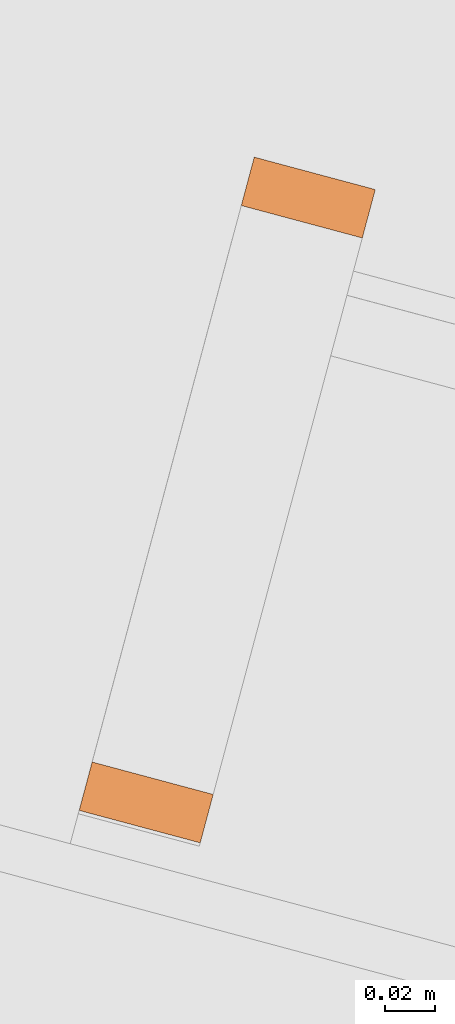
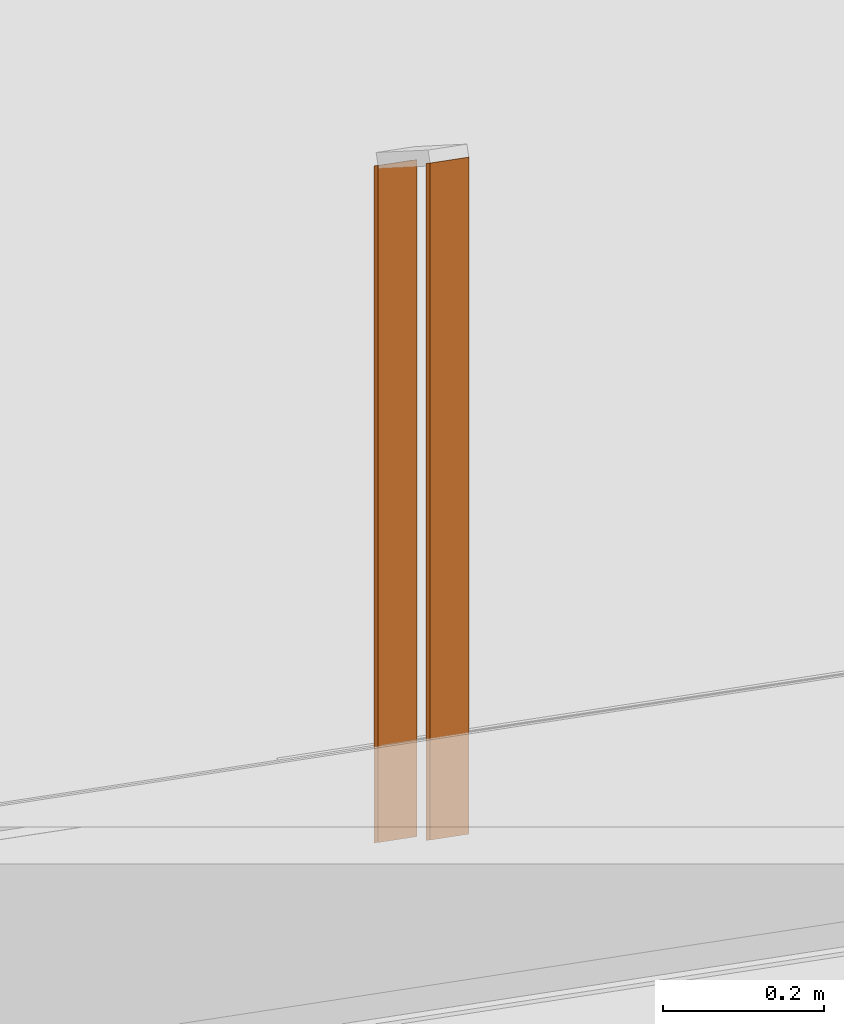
# One storey, part 95 of 167: 2 proxies, 1 element without a shape of its own.
"""IFC2X3 building model written with IfcOpenShell, lengths in millimetres."""

from ifc_helpers import new_model, entity, si_unit, converted_unit, derived_unit, money_unit, direction, frame, origin_with_axes, place, context, subcontext, project, spatial, faceted_brep, source, transform, mapped, material, type_object, type_shapes, element, aggregate, save


model = new_model("IFC2X3")

# Units and contexts
model_context = context("Model", 3, precision=0.01, world=origin_with_axes(), true_north=direction((0.0, 1.0)))
plan_context = context("Plan", 3, precision=0.01, world=origin_with_axes(), true_north=direction((0.0, 1.0)))
body_context = subcontext(model_context, "Body", "Model", "MODEL_VIEW")
ifc_project = project(units=[si_unit("LENGTHUNIT", "METRE", prefix="MILLI"), si_unit("AREAUNIT", "SQUARE_METRE"), si_unit("VOLUMEUNIT", "CUBIC_METRE"), converted_unit("PLANEANGLEUNIT", "DEGREE", entity("IfcPlaneAngleMeasure", 0.0174532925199), si_unit("PLANEANGLEUNIT", "RADIAN"), dimensions=[0, 0, 0, 0, 0, 0, 0]), si_unit("SOLIDANGLEUNIT", "STERADIAN"), money_unit("EUR"), converted_unit("TIMEUNIT", "Year", entity("IfcTimeMeasure", 31556926.0), si_unit("TIMEUNIT", "SECOND"), dimensions=[0, 0, 1, 0, 0, 0, 0]), si_unit("MASSUNIT", "GRAM", prefix="KILO"), si_unit("THERMODYNAMICTEMPERATUREUNIT", "DEGREE_CELSIUS"), si_unit("LUMINOUSINTENSITYUNIT", "LUMEN"), si_unit("ENERGYUNIT", "JOULE", prefix="MEGA"), derived_unit("THERMALCONDUCTANCEUNIT", [(si_unit("POWERUNIT", "WATT"), 1), (si_unit("LENGTHUNIT", "METRE"), -1), (si_unit("THERMODYNAMICTEMPERATUREUNIT", "KELVIN"), -1)]), derived_unit("SPECIFICHEATCAPACITYUNIT", [(si_unit("ENERGYUNIT", "JOULE"), 1), (si_unit("MASSUNIT", "GRAM", prefix="KILO"), -1), (si_unit("THERMODYNAMICTEMPERATUREUNIT", "KELVIN"), -1)]), derived_unit("MASSDENSITYUNIT", [(si_unit("MASSUNIT", "GRAM", prefix="KILO"), 1), (si_unit("VOLUMEUNIT", "CUBIC_METRE"), -1)])], contexts=[model_context, plan_context])

# Site, building, storey
site_placement = place(None, origin_with_axes())
site = spatial("IfcSite", under=ifc_project, at=site_placement, Name="Site", CompositionType="ELEMENT")
building_placement = place(site_placement, origin_with_axes())
building = spatial("IfcBuilding", under=site, at=building_placement, Name="Naam gebouw", CompositionType="ELEMENT")
storey_placement = place(building_placement, origin_with_axes())
storey = spatial("IfcBuildingStorey", under=building, at=storey_placement, Name="Begane grond", CompositionType="ELEMENT", Elevation=0.0)

# Proxies
building_element_proxy_type_1 = type_object("IfcBuildingElementProxyType", Name="Railing Type", PredefinedType="NOTDEFINED")
proxy_1_placement = place(storey_placement, frame((20389.3507244, 24629.7836369, 375.39282431), z_axis=(0.0, 0.0, 1.0), x_axis=(-0.866656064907, -0.498906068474, 0.0)))
proxy_1 = element("IfcBuildingElementProxy", 1, at=proxy_1_placement, inside=storey, type_object=building_element_proxy_type_1, Name="34__Reling-x")
ifc_material = material(Name="Metaal - RVS")
building_element_proxy_type_2 = type_object("IfcBuildingElementProxyType", Name="IfcBuildingElementProxy", PredefinedType="NOTDEFINED")
shared_shape = source(origin_with_axes(), body_context, "Body", "Brep", [
    faceted_brep([(-25.0, 10.0, 6.91520295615), (-25.0, 10.0, 1036.20625047), (25.0, 10.0, 1036.20625047), (25.0, 10.0, 6.91520295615), (-25.0, -10.0, -6.91520295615), (-25.0, -10.0, 1022.37584455), (25.0, -10.0, 1022.37584455), (25.0, -10.0, -6.91520295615)], [[[0, 1, 2, 3]], [[4, 5, 1, 0]], [[1, 5, 6, 2]], [[3, 2, 6, 7]], [[0, 3, 7, 4]], [[7, 6, 5, 4]]]),
])
type_shapes(building_element_proxy_type_2, [shared_shape])
proxy_2_placement = place(proxy_1_placement, frame((4090.48235142, 3914.27551539, 0.0), z_axis=(0.0, 0.0, 1.0), x_axis=(-0.866656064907, 0.498906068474, 0.0)))
proxy_2 = element("IfcBuildingElementProxy", 2, at=proxy_2_placement, type_object=building_element_proxy_type_2, material=ifc_material, Name="__Hoofdbaluster-x", context=body_context, shape_type="MappedRepresentation", body=[
    mapped(shared_shape, transform((0.0, 0.0, 0.0), x_axis=(-0.965925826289, 0.258819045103, 0.0), y_axis=(-0.258819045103, -0.965925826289, 0.0), z_axis=(0.0, 0.0, 1.0))),
])
proxy_3_placement = place(proxy_1_placement, frame((4266.99106826, 4091.23055235, 172.836381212), z_axis=(0.0, 0.0, 1.0), x_axis=(-0.866656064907, 0.498906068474, 0.0)))
proxy_3 = element("IfcBuildingElementProxy", 3, at=proxy_3_placement, type_object=building_element_proxy_type_2, material=ifc_material, Name="__Hoofdbaluster-x", context=body_context, shape_type="MappedRepresentation", body=[
    mapped(shared_shape, transform((0.0, 0.0, 0.0), x_axis=(-0.965925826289, 0.258819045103, 0.0), y_axis=(-0.258819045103, -0.965925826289, 0.0), z_axis=(0.0, 0.0, 1.0))),
])
aggregate(proxy_1, [proxy_2, proxy_3])

save(model, "model.ifc")
